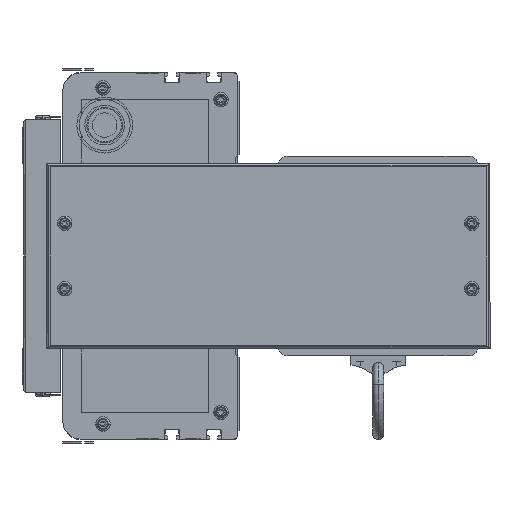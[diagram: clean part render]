
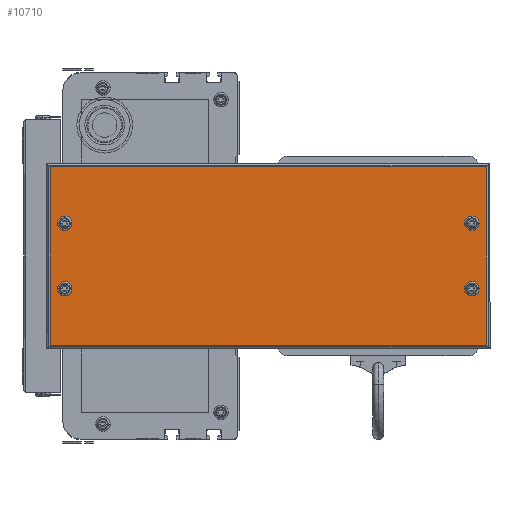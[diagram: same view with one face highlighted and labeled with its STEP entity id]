
A CAD part, left-side view. The second image highlights one B-rep face of the part: STEP entity #10710.
In plain terms, the highlighted planar face has unit normal (-1, 0, 0) as drawn and (1, 0, 0) by its records, which use the part's own axes.
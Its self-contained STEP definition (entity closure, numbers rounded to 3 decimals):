
#2633 = CARTESIAN_POINT ( 'NONE',  ( 50., 10., -30.5 ) ) ;
#2900 = CARTESIAN_POINT ( 'NONE',  ( 50., 234., -35.5 ) ) ;
#9808 = VERTEX_POINT ( 'NONE', #107238 ) ;
#10028 = ORIENTED_EDGE ( 'NONE', *, *, #10371, .F. ) ;
#10044 = VERTEX_POINT ( 'NONE', #108009 ) ;
#10045 = VERTEX_POINT ( 'NONE', #107976 ) ;
#10064 = VERTEX_POINT ( 'NONE', #108014 ) ;
#10065 = VERTEX_POINT ( 'NONE', #108013 ) ;
#10093 = EDGE_CURVE ( 'NONE', #10065, #10467, #107818, .T. ) ;
#10100 = EDGE_LOOP ( 'NONE', ( #10116, #10707 ) ) ;
#10102 = EDGE_CURVE ( 'NONE', #10467, #10286, #107938, .T. ) ;
#10106 = ORIENTED_EDGE ( 'NONE', *, *, #10102, .T. ) ;
#10108 = EDGE_CURVE ( 'NONE', #10286, #10064, #107950, .T. ) ;
#10110 = EDGE_CURVE ( 'NONE', #10309, #10207, #107947, .T. ) ;
#10112 = ORIENTED_EDGE ( 'NONE', *, *, #10108, .T. ) ;
#10116 = ORIENTED_EDGE ( 'NONE', *, *, #10110, .F. ) ;
#10143 = VERTEX_POINT ( 'NONE', #108669 ) ;
#10164 = EDGE_CURVE ( 'NONE', #10044, #10045, #108620, .T. ) ;
#10197 = EDGE_CURVE ( 'NONE', #10328, #9808, #108544, .T. ) ;
#10207 = VERTEX_POINT ( 'NONE', #108530 ) ;
#10233 = EDGE_CURVE ( 'NONE', #10207, #10309, #108428, .T. ) ;
#10286 = VERTEX_POINT ( 'NONE', #108756 ) ;
#10292 = ORIENTED_EDGE ( 'NONE', *, *, #10164, .F. ) ;
#10296 = ORIENTED_EDGE ( 'NONE', *, *, #10197, .F. ) ;
#10309 = VERTEX_POINT ( 'NONE', #109075 ) ;
#10328 = VERTEX_POINT ( 'NONE', #2633 ) ;
#10343 = VERTEX_POINT ( 'NONE', #2900 ) ;
#10371 = EDGE_CURVE ( 'NONE', #10143, #10343, #149922, .T. ) ;
#10395 = ORIENTED_EDGE ( 'NONE', *, *, #10404, .T. ) ;
#10404 = EDGE_CURVE ( 'NONE', #10064, #10065, #149599, .T. ) ;
#10421 = EDGE_LOOP ( 'NONE', ( #10424, #10292 ) ) ;
#10424 = ORIENTED_EDGE ( 'NONE', *, *, #10435, .F. ) ;
#10429 = EDGE_LOOP ( 'NONE', ( #10567, #10028 ) ) ;
#10431 = EDGE_CURVE ( 'NONE', #9808, #10328, #149983, .T. ) ;
#10434 = EDGE_LOOP ( 'NONE', ( #10706, #10296 ) ) ;
#10435 = EDGE_CURVE ( 'NONE', #10045, #10044, #150233, .T. ) ;
#10467 = VERTEX_POINT ( 'NONE', #150093 ) ;
#10567 = ORIENTED_EDGE ( 'NONE', *, *, #10570, .F. ) ;
#10570 = EDGE_CURVE ( 'NONE', #10343, #10143, #150543, .T. ) ;
#10706 = ORIENTED_EDGE ( 'NONE', *, *, #10431, .F. ) ;
#10707 = ORIENTED_EDGE ( 'NONE', *, *, #10233, .F. ) ;
#10709 = EDGE_LOOP ( 'NONE', ( #10395, #10711, #10106, #10112 ) ) ;
#10710 = ADVANCED_FACE ( 'NONE', ( #151247, #151248, #151417, #151421, #151415 ), #151418, .F. ) ;
#10711 = ORIENTED_EDGE ( 'NONE', *, *, #10093, .T. ) ;
#107238 = CARTESIAN_POINT ( 'NONE',  ( 50., 10., -35.5 ) ) ;
#107791 = DIRECTION ( 'NONE',  ( 0., 0., -1. ) ) ;
#107792 = DIRECTION ( 'NONE',  ( 1., 0., 0. ) ) ;
#107793 = CARTESIAN_POINT ( 'NONE',  ( 50., 10., -69. ) ) ;
#107794 = AXIS2_PLACEMENT_3D ( 'NONE', #107793, #107792, #107791 ) ;
#107801 = DIRECTION ( 'NONE',  ( 0., 0., 1. ) ) ;
#107803 = VECTOR ( 'NONE', #107801, 1000. ) ;
#107807 = DIRECTION ( 'NONE',  ( 0., 1., 0. ) ) ;
#107808 = VECTOR ( 'NONE', #107807, 1000. ) ;
#107809 = DIRECTION ( 'NONE',  ( 0., 0., -1. ) ) ;
#107811 = VECTOR ( 'NONE', #107809, 1000. ) ;
#107813 = CARTESIAN_POINT ( 'NONE',  ( 50., 2., 0. ) ) ;
#107818 = LINE ( 'NONE', #107813, #107811 ) ;
#107936 = CARTESIAN_POINT ( 'NONE',  ( 50., 244., -100. ) ) ;
#107938 = LINE ( 'NONE', #107936, #107808 ) ;
#107947 = CIRCLE ( 'NONE', #107794, 2.5 ) ;
#107949 = CARTESIAN_POINT ( 'NONE',  ( 50., 242., 0. ) ) ;
#107950 = LINE ( 'NONE', #107949, #107803 ) ;
#107976 = CARTESIAN_POINT ( 'NONE',  ( 50., 234., -71.5 ) ) ;
#108009 = CARTESIAN_POINT ( 'NONE',  ( 50., 234., -66.5 ) ) ;
#108013 = CARTESIAN_POINT ( 'NONE',  ( 50., 2., -2. ) ) ;
#108014 = CARTESIAN_POINT ( 'NONE',  ( 50., 242., -2. ) ) ;
#108351 = CARTESIAN_POINT ( 'NONE',  ( 50., 234., -69. ) ) ;
#108400 = DIRECTION ( 'NONE',  ( 0., 0., -1. ) ) ;
#108402 = DIRECTION ( 'NONE',  ( 1., 0., 0. ) ) ;
#108426 = CARTESIAN_POINT ( 'NONE',  ( 50., 10., -69. ) ) ;
#108428 = CIRCLE ( 'NONE', #108594, 2.5 ) ;
#108503 = DIRECTION ( 'NONE',  ( 0., 0., -1. ) ) ;
#108504 = DIRECTION ( 'NONE',  ( 1., 0., 0. ) ) ;
#108513 = CARTESIAN_POINT ( 'NONE',  ( 50., 10., -33. ) ) ;
#108522 = AXIS2_PLACEMENT_3D ( 'NONE', #108513, #108504, #108503 ) ;
#108530 = CARTESIAN_POINT ( 'NONE',  ( 50., 10., -66.5 ) ) ;
#108544 = CIRCLE ( 'NONE', #108522, 2.5 ) ;
#108594 = AXIS2_PLACEMENT_3D ( 'NONE', #108426, #108402, #108400 ) ;
#108595 = DIRECTION ( 'NONE',  ( 0., 0., -1. ) ) ;
#108620 = CIRCLE ( 'NONE', #108657, 2.5 ) ;
#108629 = DIRECTION ( 'NONE',  ( 1., 0., 0. ) ) ;
#108657 = AXIS2_PLACEMENT_3D ( 'NONE', #108351, #108629, #108595 ) ;
#108669 = CARTESIAN_POINT ( 'NONE',  ( 50., 234., -30.5 ) ) ;
#108756 = CARTESIAN_POINT ( 'NONE',  ( 50., 242., -100. ) ) ;
#109075 = CARTESIAN_POINT ( 'NONE',  ( 50., 10., -71.5 ) ) ;
#149556 = CARTESIAN_POINT ( 'NONE',  ( 50., 10., -33. ) ) ;
#149557 = AXIS2_PLACEMENT_3D ( 'NONE', #149556, #150243, #150229 ) ;
#149591 = DIRECTION ( 'NONE',  ( 0., -1., 0. ) ) ;
#149592 = VECTOR ( 'NONE', #149591, 1000. ) ;
#149594 = CARTESIAN_POINT ( 'NONE',  ( 50., 244., -2. ) ) ;
#149599 = LINE ( 'NONE', #149594, #149592 ) ;
#149822 = DIRECTION ( 'NONE',  ( 0., 0., -1. ) ) ;
#149824 = DIRECTION ( 'NONE',  ( 1., 0., 0. ) ) ;
#149825 = CARTESIAN_POINT ( 'NONE',  ( 50., 234., -33. ) ) ;
#149827 = AXIS2_PLACEMENT_3D ( 'NONE', #149825, #149824, #149822 ) ;
#149922 = CIRCLE ( 'NONE', #149827, 2.5 ) ;
#149983 = CIRCLE ( 'NONE', #149557, 2.5 ) ;
#150093 = CARTESIAN_POINT ( 'NONE',  ( 50., 2., -100. ) ) ;
#150186 = AXIS2_PLACEMENT_3D ( 'NONE', #150314, #150411, #150225 ) ;
#150225 = DIRECTION ( 'NONE',  ( 0., 0., -1. ) ) ;
#150229 = DIRECTION ( 'NONE',  ( 0., 0., -1. ) ) ;
#150233 = CIRCLE ( 'NONE', #150186, 2.5 ) ;
#150243 = DIRECTION ( 'NONE',  ( 1., 0., 0. ) ) ;
#150314 = CARTESIAN_POINT ( 'NONE',  ( 50., 234., -69. ) ) ;
#150411 = DIRECTION ( 'NONE',  ( 1., 0., 0. ) ) ;
#150494 = DIRECTION ( 'NONE',  ( 0., 0., -1. ) ) ;
#150543 = CIRCLE ( 'NONE', #150674, 2.5 ) ;
#150674 = AXIS2_PLACEMENT_3D ( 'NONE', #150695, #150699, #150494 ) ;
#150695 = CARTESIAN_POINT ( 'NONE',  ( 50., 234., -33. ) ) ;
#150699 = DIRECTION ( 'NONE',  ( 1., 0., 0. ) ) ;
#151247 = FACE_OUTER_BOUND ( 'NONE', #10709, .T. ) ;
#151248 = FACE_BOUND ( 'NONE', #10100, .T. ) ;
#151415 = FACE_BOUND ( 'NONE', #10429, .T. ) ;
#151417 = FACE_BOUND ( 'NONE', #10434, .T. ) ;
#151418 = PLANE ( 'NONE',  #151425 ) ;
#151421 = FACE_BOUND ( 'NONE', #10421, .T. ) ;
#151425 = AXIS2_PLACEMENT_3D ( 'NONE', #151426, #151444, #151443 ) ;
#151426 = CARTESIAN_POINT ( 'NONE',  ( 50., 244., 0. ) ) ;
#151443 = DIRECTION ( 'NONE',  ( 0., 0., 1. ) ) ;
#151444 = DIRECTION ( 'NONE',  ( -1., 0., 0. ) ) ;
